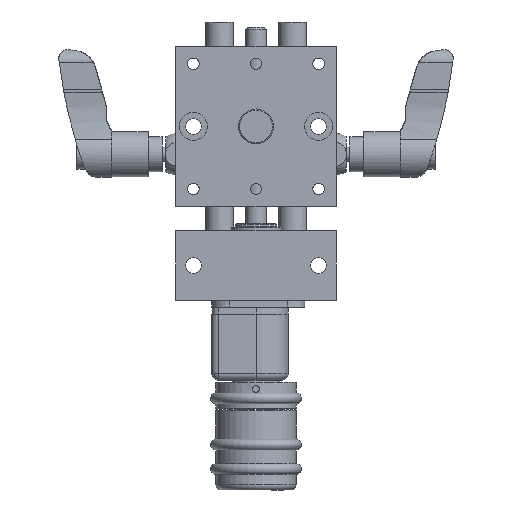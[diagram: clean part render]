
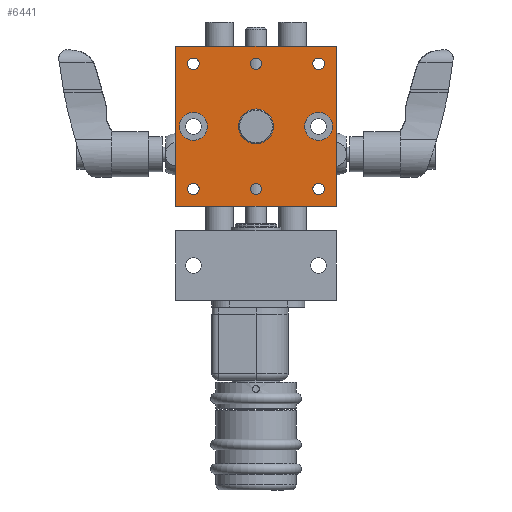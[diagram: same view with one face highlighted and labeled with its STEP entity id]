
A CAD part, front view. The second image highlights one B-rep face of the part: STEP entity #6441.
In plain terms, the highlighted planar face has unit normal (0, -1, 0) as drawn and (0, 0, -1) by its records, which use the part's own axes.
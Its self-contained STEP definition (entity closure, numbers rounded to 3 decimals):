
#177 = CARTESIAN_POINT ( 'NONE',  ( 46., 0., -20. ) ) ;
#324 = CIRCLE ( 'NONE', #776, 1.65 ) ;
#587 = DIRECTION ( 'NONE',  ( 0., 0., 1. ) ) ;
#643 = AXIS2_PLACEMENT_3D ( 'NONE', #3713, #8053, #7042 ) ;
#670 = CARTESIAN_POINT ( 'NONE',  ( 6.65, 23., -20. ) ) ;
#730 = FACE_BOUND ( 'NONE', #11845, .T. ) ;
#775 = CARTESIAN_POINT ( 'NONE',  ( 28., 23., -20. ) ) ;
#776 = AXIS2_PLACEMENT_3D ( 'NONE', #2325, #13202, #8742 ) ;
#922 = VERTEX_POINT ( 'NONE', #775 ) ;
#940 = VERTEX_POINT ( 'NONE', #7415 ) ;
#1008 = EDGE_CURVE ( 'NONE', #10278, #10278, #5237, .T. ) ;
#1080 = LINE ( 'NONE', #8644, #1369 ) ;
#1244 = CIRCLE ( 'NONE', #10244, 5. ) ;
#1322 = EDGE_CURVE ( 'NONE', #5852, #5852, #12522, .T. ) ;
#1369 = VECTOR ( 'NONE', #5558, 1000. ) ;
#1878 = FACE_BOUND ( 'NONE', #10998, .T. ) ;
#1912 = DIRECTION ( 'NONE',  ( 0., 0., 1. ) ) ;
#1941 = VERTEX_POINT ( 'NONE', #8568 ) ;
#2049 = CARTESIAN_POINT ( 'NONE',  ( 46., 0., -20. ) ) ;
#2119 = EDGE_CURVE ( 'NONE', #12828, #12828, #11449, .T. ) ;
#2325 = CARTESIAN_POINT ( 'NONE',  ( 5., 5., -20. ) ) ;
#2370 = EDGE_CURVE ( 'NONE', #1941, #1941, #324, .T. ) ;
#2371 = EDGE_LOOP ( 'NONE', ( #6283 ) ) ;
#2400 = ORIENTED_EDGE ( 'NONE', *, *, #1008, .T. ) ;
#2573 = DIRECTION ( 'NONE',  ( 0., -1., 0. ) ) ;
#2720 = ORIENTED_EDGE ( 'NONE', *, *, #6192, .T. ) ;
#2800 = FACE_BOUND ( 'NONE', #11251, .T. ) ;
#2865 = PLANE ( 'NONE',  #7724 ) ;
#2897 = CARTESIAN_POINT ( 'NONE',  ( 23., 41., -20. ) ) ;
#3338 = EDGE_CURVE ( 'NONE', #940, #940, #7561, .T. ) ;
#3467 = EDGE_LOOP ( 'NONE', ( #5923, #13913, #13971, #13424 ) ) ;
#3501 = CARTESIAN_POINT ( 'NONE',  ( 23., 23., -20. ) ) ;
#3608 = CARTESIAN_POINT ( 'NONE',  ( 46., 46., -20. ) ) ;
#3702 = DIRECTION ( 'NONE',  ( -1., 0., 0. ) ) ;
#3713 = CARTESIAN_POINT ( 'NONE',  ( 41., 5., -20. ) ) ;
#3721 = LINE ( 'NONE', #13318, #7287 ) ;
#3780 = ORIENTED_EDGE ( 'NONE', *, *, #2370, .T. ) ;
#3865 = EDGE_LOOP ( 'NONE', ( #2400 ) ) ;
#4011 = FACE_BOUND ( 'NONE', #4444, .T. ) ;
#4076 = CARTESIAN_POINT ( 'NONE',  ( 27., 5., -20. ) ) ;
#4159 = FACE_BOUND ( 'NONE', #2371, .T. ) ;
#4238 = DIRECTION ( 'NONE',  ( 1., 0., 0. ) ) ;
#4444 = EDGE_LOOP ( 'NONE', ( #11369 ) ) ;
#4449 = EDGE_CURVE ( 'NONE', #13130, #10520, #1080, .T. ) ;
#4564 = EDGE_CURVE ( 'NONE', #10520, #12317, #3721, .T. ) ;
#4941 = CARTESIAN_POINT ( 'NONE',  ( 5., 41., -20. ) ) ;
#5063 = CARTESIAN_POINT ( 'NONE',  ( 42.65, 41., -20. ) ) ;
#5190 = EDGE_LOOP ( 'NONE', ( #2720 ) ) ;
#5237 = CIRCLE ( 'NONE', #9582, 1.65 ) ;
#5315 = VERTEX_POINT ( 'NONE', #177 ) ;
#5489 = VERTEX_POINT ( 'NONE', #9856 ) ;
#5558 = DIRECTION ( 'NONE',  ( -1., 0., 0. ) ) ;
#5852 = VERTEX_POINT ( 'NONE', #9220 ) ;
#5923 = ORIENTED_EDGE ( 'NONE', *, *, #4564, .F. ) ;
#6027 = EDGE_LOOP ( 'NONE', ( #13442 ) ) ;
#6173 = CARTESIAN_POINT ( 'NONE',  ( 41., 41., -20. ) ) ;
#6192 = EDGE_CURVE ( 'NONE', #5489, #5489, #9793, .T. ) ;
#6207 = CARTESIAN_POINT ( 'NONE',  ( 0., 46., -20. ) ) ;
#6283 = ORIENTED_EDGE ( 'NONE', *, *, #3338, .F. ) ;
#6284 = CARTESIAN_POINT ( 'NONE',  ( 5., 23., -20. ) ) ;
#6373 = CIRCLE ( 'NONE', #7971, 1.65 ) ;
#6441 = ADVANCED_FACE ( 'NONE', ( #10354, #9437, #12615, #2800, #730, #9576, #1878, #4159, #4011, #11479 ), #2865, .T. ) ;
#6448 = LINE ( 'NONE', #13073, #12717 ) ;
#6935 = VECTOR ( 'NONE', #11800, 1000. ) ;
#7042 = DIRECTION ( 'NONE',  ( 1., 0., 0. ) ) ;
#7094 = DIRECTION ( 'NONE',  ( 1., 0., 0. ) ) ;
#7287 = VECTOR ( 'NONE', #2573, 1000. ) ;
#7408 = CARTESIAN_POINT ( 'NONE',  ( 0., 0., -20. ) ) ;
#7415 = CARTESIAN_POINT ( 'NONE',  ( 19., 41., -20. ) ) ;
#7459 = CARTESIAN_POINT ( 'NONE',  ( 0., 46., -20. ) ) ;
#7561 = CIRCLE ( 'NONE', #11423, 4. ) ;
#7724 = AXIS2_PLACEMENT_3D ( 'NONE', #6207, #13843, #10415 ) ;
#7832 = DIRECTION ( 'NONE',  ( 0., 0., 1. ) ) ;
#7914 = EDGE_CURVE ( 'NONE', #5315, #13130, #13885, .T. ) ;
#7971 = AXIS2_PLACEMENT_3D ( 'NONE', #6284, #13053, #4238 ) ;
#8053 = DIRECTION ( 'NONE',  ( 0., 0., 1. ) ) ;
#8093 = CARTESIAN_POINT ( 'NONE',  ( 23., 5., -20. ) ) ;
#8099 = ORIENTED_EDGE ( 'NONE', *, *, #1322, .T. ) ;
#8568 = CARTESIAN_POINT ( 'NONE',  ( 6.65, 5., -20. ) ) ;
#8644 = CARTESIAN_POINT ( 'NONE',  ( 0., 46., -20. ) ) ;
#8742 = DIRECTION ( 'NONE',  ( 1., 0., 0. ) ) ;
#8818 = EDGE_CURVE ( 'NONE', #922, #922, #1244, .T. ) ;
#8854 = EDGE_LOOP ( 'NONE', ( #14073 ) ) ;
#9220 = CARTESIAN_POINT ( 'NONE',  ( 42.65, 23., -20. ) ) ;
#9304 = DIRECTION ( 'NONE',  ( 0., 0., 1. ) ) ;
#9326 = AXIS2_PLACEMENT_3D ( 'NONE', #4941, #9304, #13639 ) ;
#9359 = AXIS2_PLACEMENT_3D ( 'NONE', #10352, #587, #9364 ) ;
#9364 = DIRECTION ( 'NONE',  ( 1., 0., 0. ) ) ;
#9437 = FACE_BOUND ( 'NONE', #3865, .T. ) ;
#9576 = FACE_BOUND ( 'NONE', #8854, .T. ) ;
#9582 = AXIS2_PLACEMENT_3D ( 'NONE', #6173, #1912, #12795 ) ;
#9793 = CIRCLE ( 'NONE', #9326, 1.65 ) ;
#9819 = DIRECTION ( 'NONE',  ( 1., 0., 0. ) ) ;
#9856 = CARTESIAN_POINT ( 'NONE',  ( 6.65, 41., -20. ) ) ;
#9965 = CARTESIAN_POINT ( 'NONE',  ( 42.65, 5., -20. ) ) ;
#10244 = AXIS2_PLACEMENT_3D ( 'NONE', #3501, #7832, #12171 ) ;
#10267 = EDGE_CURVE ( 'NONE', #12017, #12017, #11546, .T. ) ;
#10278 = VERTEX_POINT ( 'NONE', #5063 ) ;
#10352 = CARTESIAN_POINT ( 'NONE',  ( 41., 23., -20. ) ) ;
#10354 = FACE_BOUND ( 'NONE', #5190, .T. ) ;
#10415 = DIRECTION ( 'NONE',  ( -1., 0., 0. ) ) ;
#10428 = VERTEX_POINT ( 'NONE', #670 ) ;
#10520 = VERTEX_POINT ( 'NONE', #7459 ) ;
#10998 = EDGE_LOOP ( 'NONE', ( #13209 ) ) ;
#11251 = EDGE_LOOP ( 'NONE', ( #8099 ) ) ;
#11289 = DIRECTION ( 'NONE',  ( 0., 0., -1. ) ) ;
#11369 = ORIENTED_EDGE ( 'NONE', *, *, #8818, .T. ) ;
#11423 = AXIS2_PLACEMENT_3D ( 'NONE', #2897, #12643, #3702 ) ;
#11449 = CIRCLE ( 'NONE', #13272, 4. ) ;
#11479 = FACE_OUTER_BOUND ( 'NONE', #3467, .T. ) ;
#11546 = CIRCLE ( 'NONE', #643, 1.65 ) ;
#11800 = DIRECTION ( 'NONE',  ( 0., 1., 0. ) ) ;
#11845 = EDGE_LOOP ( 'NONE', ( #3780 ) ) ;
#12017 = VERTEX_POINT ( 'NONE', #9965 ) ;
#12171 = DIRECTION ( 'NONE',  ( 1., 0., 0. ) ) ;
#12317 = VERTEX_POINT ( 'NONE', #7408 ) ;
#12522 = CIRCLE ( 'NONE', #9359, 1.65 ) ;
#12615 = FACE_BOUND ( 'NONE', #6027, .T. ) ;
#12643 = DIRECTION ( 'NONE',  ( 0., 0., -1. ) ) ;
#12717 = VECTOR ( 'NONE', #9819, 1000. ) ;
#12795 = DIRECTION ( 'NONE',  ( 1., 0., 0. ) ) ;
#12828 = VERTEX_POINT ( 'NONE', #4076 ) ;
#13038 = EDGE_CURVE ( 'NONE', #12317, #5315, #6448, .T. ) ;
#13053 = DIRECTION ( 'NONE',  ( 0., 0., 1. ) ) ;
#13073 = CARTESIAN_POINT ( 'NONE',  ( 0., 0., -20. ) ) ;
#13130 = VERTEX_POINT ( 'NONE', #3608 ) ;
#13202 = DIRECTION ( 'NONE',  ( 0., 0., 1. ) ) ;
#13209 = ORIENTED_EDGE ( 'NONE', *, *, #2119, .F. ) ;
#13272 = AXIS2_PLACEMENT_3D ( 'NONE', #8093, #11289, #7094 ) ;
#13318 = CARTESIAN_POINT ( 'NONE',  ( 0., 0., -20. ) ) ;
#13424 = ORIENTED_EDGE ( 'NONE', *, *, #13038, .F. ) ;
#13442 = ORIENTED_EDGE ( 'NONE', *, *, #13838, .T. ) ;
#13639 = DIRECTION ( 'NONE',  ( 1., 0., 0. ) ) ;
#13838 = EDGE_CURVE ( 'NONE', #10428, #10428, #6373, .T. ) ;
#13843 = DIRECTION ( 'NONE',  ( 0., 0., -1. ) ) ;
#13885 = LINE ( 'NONE', #2049, #6935 ) ;
#13913 = ORIENTED_EDGE ( 'NONE', *, *, #4449, .F. ) ;
#13971 = ORIENTED_EDGE ( 'NONE', *, *, #7914, .F. ) ;
#14073 = ORIENTED_EDGE ( 'NONE', *, *, #10267, .T. ) ;
